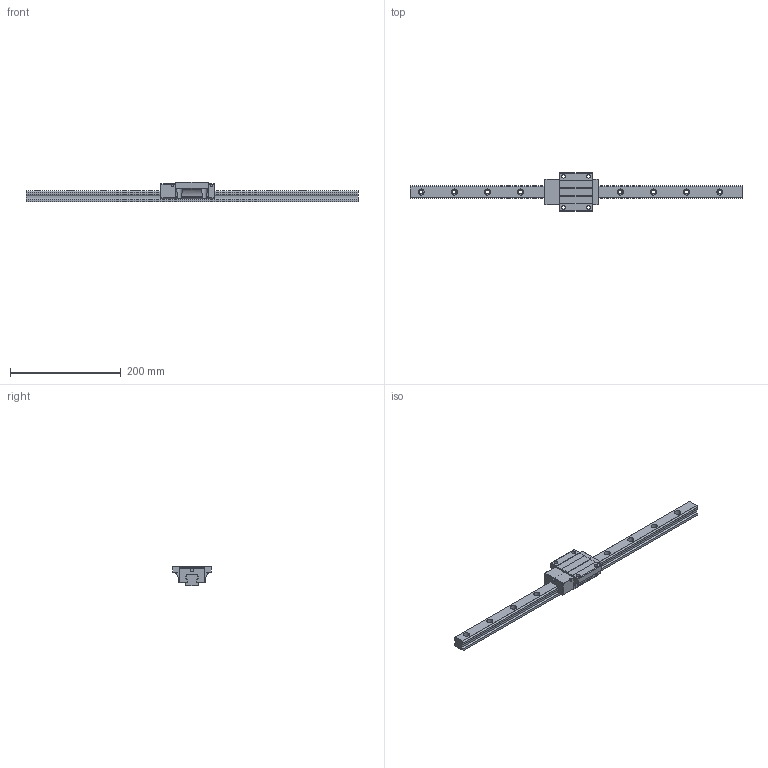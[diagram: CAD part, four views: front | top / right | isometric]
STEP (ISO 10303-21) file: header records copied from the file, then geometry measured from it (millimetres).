
FILE_DESCRIPTION (( 'STEP AP203' ), '1' );
FILE_NAME ('TRH25FN-BN.STEP', '2024-06-26T07:45:01', ( '' ), ( '' ), 'SwSTEP 2.0', 'SolidWorks 2022', '' );
FILE_SCHEMA (( 'CONFIG_CONTROL_DESIGN' ));
Length unit declared in the file: millimetre
Products named in the file (1): TRH25FN-BN
Bounding box: 600 x 70 x 36 mm (x, y, z)
Volume: 348720.2 mm3; surface area: 83502.2 mm2
Topology: 2 solids, 2 shells, 230 faces, 622 edges, 408 vertices
Faces by surface type: cylinder 130, plane 96, sphere 4
Entity records: 7829 total; most frequent: CARTESIAN_POINT 1773, DIRECTION 1276, ORIENTED_EDGE 1236, EDGE_CURVE 618, AXIS2_PLACEMENT_3D 459, VERTEX_POINT 408, VECTOR 358, LINE 358
